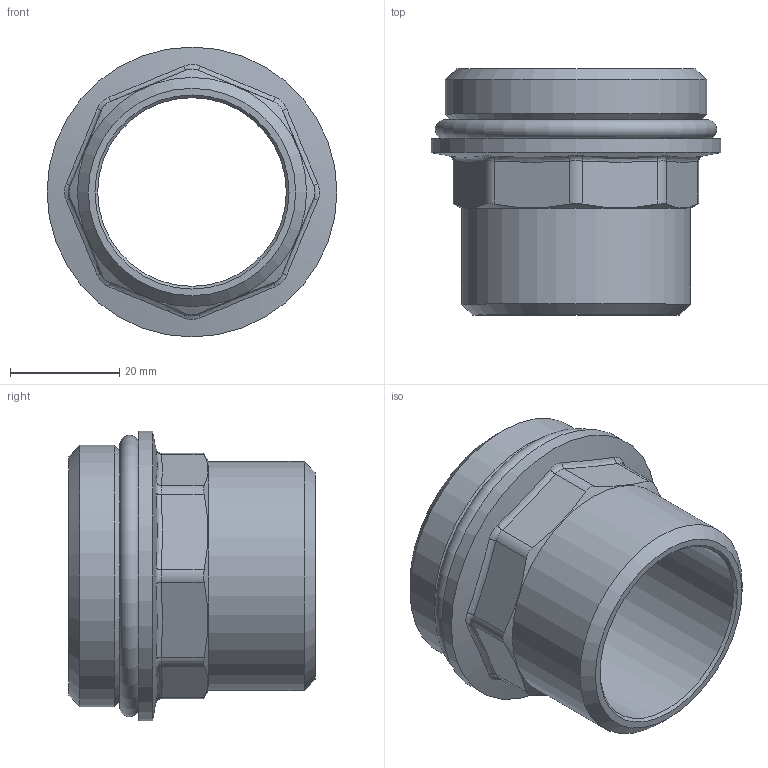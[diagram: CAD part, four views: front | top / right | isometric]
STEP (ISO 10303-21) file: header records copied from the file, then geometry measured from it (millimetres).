
FILE_DESCRIPTION(('STEP AP242'), '1');
FILE_NAME('覆.302634.096.000 捘 - VTr.601.N.0807', '', ('UNSPECIFIED'), ('UNSPECIFIED'), 'C3D Converter', 'C3D Toolkit', '');
FILE_SCHEMA(('AP242_MANAGED_MODEL_BASED_3D_ENGINEERING_MIM_LF { 1 0 10303 442 1 1 4 }'));
Length unit declared in the file: millimetre
Products named in the file (3): ВР.302634.096.000 СБ; ВР.753157.029
Assembly tree (2 placements, depth 2):
  ВР.302634.096.000 СБ
    ВР.753157.029
    (unnamed)
Bounding box: 53 x 45 x 53 mm (x, y, z)
Volume: 24954.9 mm3; surface area: 15118.4 mm2
Topology: 2 solids, 2 shells, 52 faces, 129 edges, 82 vertices
Faces by surface type: bspline 16, cylinder 14, plane 11, cone 8, torus 3
Full cylindrical faces by diameter (mm): 34.5 x1, 39.2 x1, 41.91 x1, 44.5 x1, 47.803 x1, 53 x1
Entity records: 3630 total; most frequent: CARTESIAN_POINT 2478, ORIENTED_EDGE 202, DIRECTION 148, EDGE_CURVE 101, EDGE_LOOP 70, VERTEX_POINT 69, B_SPLINE_CURVE_WITH_KNOTS 68, AXIS2_PLACEMENT_3D 66
